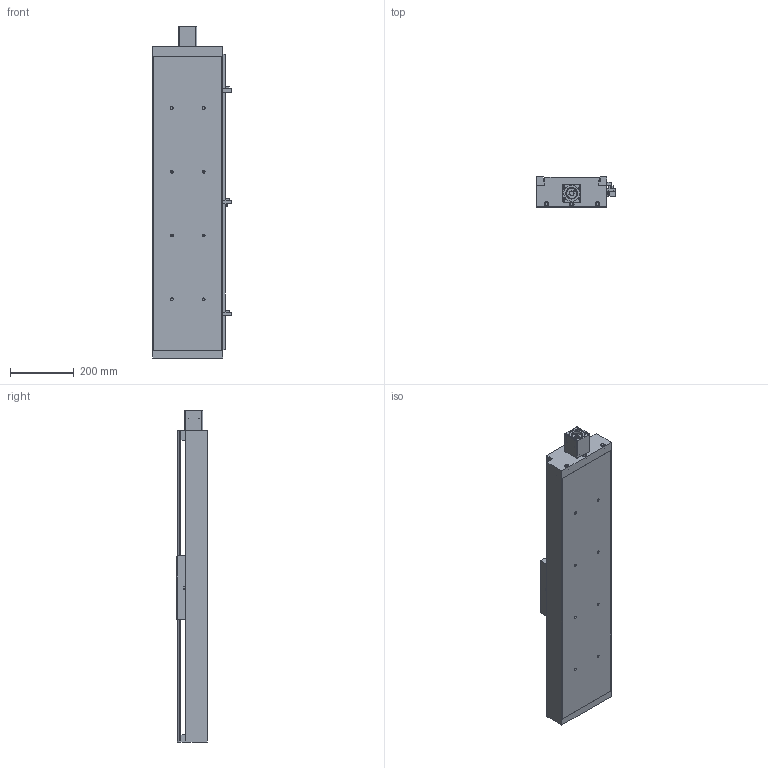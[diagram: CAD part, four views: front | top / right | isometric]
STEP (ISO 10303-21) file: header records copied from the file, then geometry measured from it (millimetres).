
FILE_DESCRIPTION((''),'2;1');
FILE_NAME('E:\libraries\UIA actuator library 2016\standard actuator\UIA220R20NDC\UIA220R20NDC ball screw 25\UIA220R20NDC-_ _ _-R25_ _ stp file, 01May16\UIA220R20NDC-700-R25_ _-M60-P13-C10-S.stp','2016-04-29T17:31:08',('h029'),(''),'Autodesk Inventor 11','Autodesk Inventor 11','');
FILE_SCHEMA(('AUTOMOTIVE_DESIGN { 1 0 10303 214 1 1 1 1 }'));
Length unit declared in the file: millimetre
Products named in the file (10): UIA220R20NDC-700-R25_ _; UIA220R20NDC-body; 41-100 0010 CARRIAGE; sensor rail; Sensor Switch; motor mount M60; SOH-32C; SOH-32C-3; SOH-32C-1; SOH-32C-2
Assembly tree (9 placements, depth 3):
  UIA220R20NDC-700-R25_ _
    UIA220R20NDC-body
    41-100 0010 CARRIAGE
    sensor rail
    Sensor Switch
    motor mount M60
    SOH-32C
      SOH-32C-3
      SOH-32C-1
      SOH-32C-2
Bounding box: 246.5 x 96 x 1041 mm (x, y, z)
Volume: 6242645.1 mm3; surface area: 1451819.1 mm2
Topology: 8 solids, 8 shells, 512 faces, 1366 edges, 898 vertices
Faces by surface type: plane 341, bspline 121, cylinder 48, cone 2
Full cylindrical faces by diameter (mm): 3.242 x2, 4.5 x2, 7 x4, 7.5 x2, 12 x1, 13.8 x3, 14 x5, 17 x1, 32 x3, 37 x1, 50.3 x1, 50.5 x1
Entity records: 16726 total; most frequent: CARTESIAN_POINT 4732, ORIENTED_EDGE 2330, DIRECTION 2281, EDGE_CURVE 1165, VECTOR 849, LINE 849, VERTEX_POINT 824, EDGE_LOOP 743
